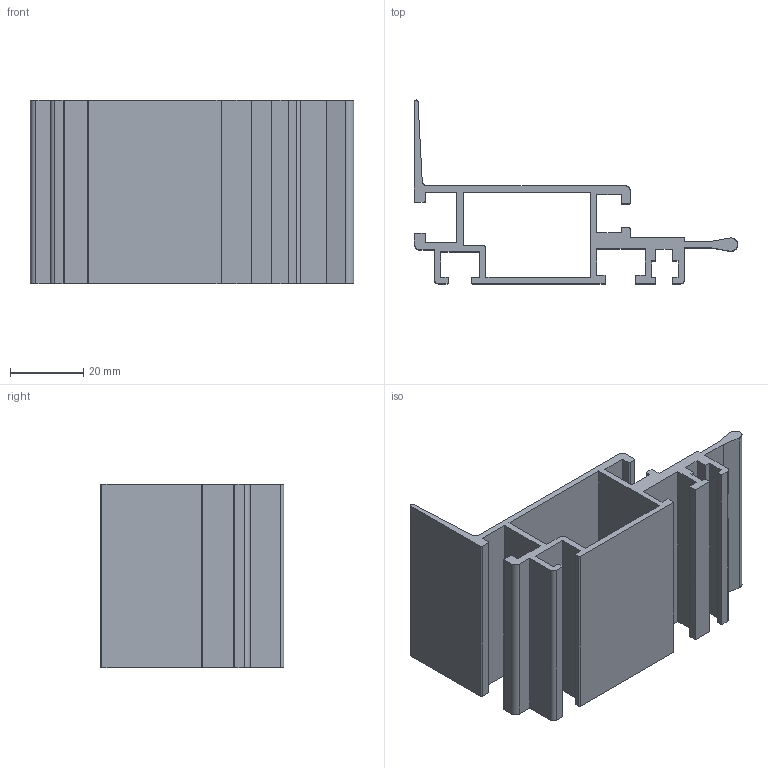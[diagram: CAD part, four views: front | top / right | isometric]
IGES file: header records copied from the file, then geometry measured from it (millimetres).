
Start section: SolidWorks IGES file using analytic representation for surfaces
Global section: file name: C:\Documents and Settings\URETIM3\Desktop\yeni katalog tolgay düzenli\C kataloðu\50x88konveyör yan þase alüminyum profil eloksallý\765 050 088.IGS; native system: SolidWorks 2006 by SolidWorks Corporation; preprocessor: SolidWorks 2006 by SolidWorks Corporation; author: URETIM3; date: 060912.104509; units: millimetre
Bounding box: 88 x 50 x 50 mm (x, y, z)
Surface area: 27316.2 mm2 (no closed solid volume)
Topology: 0 solids, 0 shells, 86 faces, 704 edges, 704 vertices
Faces by surface type: bspline 66, revolution 20
